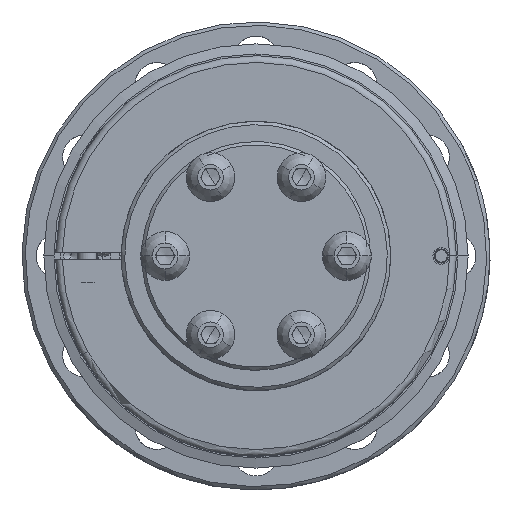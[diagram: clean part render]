
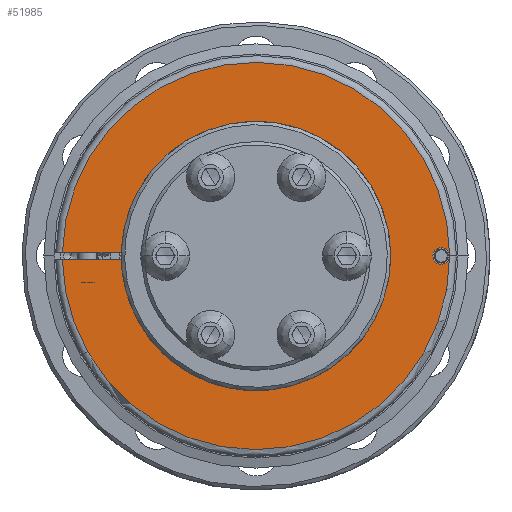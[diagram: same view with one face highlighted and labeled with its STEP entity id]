
A CAD part, left-side view. The second image highlights one B-rep face of the part: STEP entity #51985.
In plain terms, the highlighted planar face has unit normal (-1, 0, 0).
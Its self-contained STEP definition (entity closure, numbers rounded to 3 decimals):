
#44300=AXIS2_PLACEMENT_3D('Circle Axis2P3D',#44298,#44299,$) ;
#44354=AXIS2_PLACEMENT_3D('Circle Axis2P3D',#44352,#44353,$) ;
#44361=AXIS2_PLACEMENT_3D('Circle Axis2P3D',#44359,#44360,$) ;
#44396=AXIS2_PLACEMENT_3D('Circle Axis2P3D',#44394,#44395,$) ;
#51879=AXIS2_PLACEMENT_3D('Circle Axis2P3D',#51877,#51878,$) ;
#51934=AXIS2_PLACEMENT_3D('Plane Axis2P3D',#51931,#51932,#51933) ;
#51952=AXIS2_PLACEMENT_3D('Circle Axis2P3D',#51950,#51951,$) ;
#51959=AXIS2_PLACEMENT_3D('Circle Axis2P3D',#51957,#51958,$) ;
#51966=AXIS2_PLACEMENT_3D('Circle Axis2P3D',#51964,#51965,$) ;
#44261=CARTESIAN_POINT('Vertex',(-134.,-17.552,-9.589)) ;
#44295=CARTESIAN_POINT('Vertex',(-134.,17.552,9.589)) ;
#44298=CARTESIAN_POINT('Axis2P3D Location',(-134.,0.,0.)) ;
#44302=CARTESIAN_POINT('Vertex',(-134.,19.994,0.5)) ;
#44349=CARTESIAN_POINT('Vertex',(-134.,19.994,-0.5)) ;
#44352=CARTESIAN_POINT('Axis2P3D Location',(-134.,0.,0.)) ;
#44356=CARTESIAN_POINT('Vertex',(-134.,17.552,-9.589)) ;
#44359=CARTESIAN_POINT('Axis2P3D Location',(-134.,0.,0.)) ;
#44394=CARTESIAN_POINT('Axis2P3D Location',(-134.,0.,0.)) ;
#44398=CARTESIAN_POINT('Vertex',(-134.,-17.552,9.589)) ;
#44402=CARTESIAN_POINT('Control Point',(-134.,-17.552,9.589)) ;
#44403=CARTESIAN_POINT('Control Point',(-134.,-15.498,13.347)) ;
#44404=CARTESIAN_POINT('Control Point',(-134.,-12.438,16.556)) ;
#44405=CARTESIAN_POINT('Control Point',(-134.,-8.566,18.853)) ;
#44406=CARTESIAN_POINT('Control Point',(-134.,0.,21.147)) ;
#44407=CARTESIAN_POINT('Control Point',(-134.,8.566,18.853)) ;
#44408=CARTESIAN_POINT('Control Point',(-134.,12.438,16.556)) ;
#44409=CARTESIAN_POINT('Control Point',(-134.,15.498,13.347)) ;
#44410=CARTESIAN_POINT('Control Point',(-134.,17.552,9.589)) ;
#51872=CARTESIAN_POINT('Vertex',(-134.,-28.579,0.589)) ;
#51877=CARTESIAN_POINT('Axis2P3D Location',(-134.,-27.5,0.)) ;
#51881=CARTESIAN_POINT('Vertex',(-134.,-26.421,-0.589)) ;
#51909=CARTESIAN_POINT('Control Point',(-134.,-26.421,-0.589)) ;
#51910=CARTESIAN_POINT('Control Point',(-134.,-26.606,-0.928)) ;
#51911=CARTESIAN_POINT('Control Point',(-134.,-26.924,-1.195)) ;
#51912=CARTESIAN_POINT('Control Point',(-134.,-27.339,-1.316)) ;
#51913=CARTESIAN_POINT('Control Point',(-134.,-28.162,-1.212)) ;
#51914=CARTESIAN_POINT('Control Point',(-134.,-28.695,-0.576)) ;
#51915=CARTESIAN_POINT('Control Point',(-134.,-28.816,-0.161)) ;
#51916=CARTESIAN_POINT('Control Point',(-134.,-28.764,0.25)) ;
#51917=CARTESIAN_POINT('Control Point',(-134.,-28.579,0.589)) ;
#51931=CARTESIAN_POINT('Axis2P3D Location',(-134.,0.,0.)) ;
#51936=CARTESIAN_POINT('Line Origine',(-134.,24.37,0.5)) ;
#51940=CARTESIAN_POINT('Vertex',(-134.,28.746,0.5)) ;
#51943=CARTESIAN_POINT('Line Origine',(-134.,24.37,-0.5)) ;
#51947=CARTESIAN_POINT('Vertex',(-134.,28.746,-0.5)) ;
#51950=CARTESIAN_POINT('Axis2P3D Location',(-134.,0.,0.)) ;
#51954=CARTESIAN_POINT('Vertex',(-134.,24.982,-14.228)) ;
#51957=CARTESIAN_POINT('Axis2P3D Location',(-134.,0.,0.)) ;
#51961=CARTESIAN_POINT('Vertex',(-134.,-28.75,0.)) ;
#51964=CARTESIAN_POINT('Axis2P3D Location',(-134.,0.,0.)) ;
#44299=DIRECTION('Axis2P3D Direction',(1.,0.,0.)) ;
#44353=DIRECTION('Axis2P3D Direction',(1.,0.,0.)) ;
#44360=DIRECTION('Axis2P3D Direction',(1.,0.,0.)) ;
#44395=DIRECTION('Axis2P3D Direction',(1.,0.,0.)) ;
#51878=DIRECTION('Axis2P3D Direction',(-1.,0.,0.)) ;
#51932=DIRECTION('Axis2P3D Direction',(1.,0.,0.)) ;
#51933=DIRECTION('Axis2P3D XDirection',(0.,1.,0.)) ;
#51937=DIRECTION('Vector Direction',(0.,1.,0.)) ;
#51944=DIRECTION('Vector Direction',(0.,-1.,0.)) ;
#51951=DIRECTION('Axis2P3D Direction',(1.,0.,0.)) ;
#51958=DIRECTION('Axis2P3D Direction',(1.,0.,0.)) ;
#51965=DIRECTION('Axis2P3D Direction',(1.,0.,0.)) ;
#51938=VECTOR('Line Direction',#51937,1.) ;
#51945=VECTOR('Line Direction',#51944,1.) ;
#51970=ORIENTED_EDGE('',*,*,#51942,.T.) ;
#51971=ORIENTED_EDGE('',*,*,#44304,.F.) ;
#51972=ORIENTED_EDGE('',*,*,#44411,.T.) ;
#51973=ORIENTED_EDGE('',*,*,#44400,.F.) ;
#51974=ORIENTED_EDGE('',*,*,#44363,.T.) ;
#51975=ORIENTED_EDGE('',*,*,#44358,.F.) ;
#51976=ORIENTED_EDGE('',*,*,#51949,.T.) ;
#51977=ORIENTED_EDGE('',*,*,#51956,.F.) ;
#51978=ORIENTED_EDGE('',*,*,#51963,.F.) ;
#51979=ORIENTED_EDGE('',*,*,#51968,.F.) ;
#51982=ORIENTED_EDGE('',*,*,#51883,.T.) ;
#51983=ORIENTED_EDGE('',*,*,#51918,.T.) ;
#51984=FACE_BOUND('',#51981,.T.) ;
#51985=ADVANCED_FACE('MKRF40.1\\25029.1',(#51980,#51984),#51935,.F.) ;
#44401=B_SPLINE_CURVE_WITH_KNOTS('',5,(#44402,#44403,#44404,#44405,#44406,#44407,#44408,#44409,#44410),.UNSPECIFIED.,.F.,.U.,(6,3,6),(-26.166,-4.75,16.666),.UNSPECIFIED.) ;
#51908=B_SPLINE_CURVE_WITH_KNOTS('',5,(#51909,#51910,#51911,#51912,#51913,#51914,#51915,#51916,#51917),.UNSPECIFIED.,.F.,.U.,(6,3,6),(-1.931,0.,1.931),.UNSPECIFIED.) ;
#44301=CIRCLE('generated circle',#44300,20.) ;
#44355=CIRCLE('generated circle',#44354,20.) ;
#44362=CIRCLE('generated circle',#44361,20.) ;
#44397=CIRCLE('generated circle',#44396,20.) ;
#51880=CIRCLE('generated circle',#51879,1.23) ;
#51953=CIRCLE('generated circle',#51952,28.75) ;
#51960=CIRCLE('generated circle',#51959,28.75) ;
#51967=CIRCLE('generated circle',#51966,28.75) ;
#44304=EDGE_CURVE('',#44296,#44303,#44301,.F.) ;
#44358=EDGE_CURVE('',#44350,#44357,#44355,.F.) ;
#44363=EDGE_CURVE('',#44262,#44357,#44362,.T.) ;
#44400=EDGE_CURVE('',#44262,#44399,#44397,.F.) ;
#44411=EDGE_CURVE('',#44296,#44399,#44401,.F.) ;
#51883=EDGE_CURVE('',#51882,#51873,#51880,.F.) ;
#51918=EDGE_CURVE('',#51873,#51882,#51908,.F.) ;
#51942=EDGE_CURVE('',#51941,#44303,#51939,.F.) ;
#51949=EDGE_CURVE('',#44350,#51948,#51946,.F.) ;
#51956=EDGE_CURVE('',#51955,#51948,#51953,.T.) ;
#51963=EDGE_CURVE('',#51962,#51955,#51960,.T.) ;
#51968=EDGE_CURVE('',#51941,#51962,#51967,.T.) ;
#51969=EDGE_LOOP('',(#51970,#51971,#51972,#51973,#51974,#51975,#51976,#51977,#51978,#51979)) ;
#51981=EDGE_LOOP('',(#51982,#51983)) ;
#51980=FACE_OUTER_BOUND('',#51969,.T.) ;
#51939=LINE('Line',#51936,#51938) ;
#51946=LINE('Line',#51943,#51945) ;
#51935=PLANE('',#51934) ;
#44262=VERTEX_POINT('',#44261) ;
#44296=VERTEX_POINT('',#44295) ;
#44303=VERTEX_POINT('',#44302) ;
#44350=VERTEX_POINT('',#44349) ;
#44357=VERTEX_POINT('',#44356) ;
#44399=VERTEX_POINT('',#44398) ;
#51873=VERTEX_POINT('',#51872) ;
#51882=VERTEX_POINT('',#51881) ;
#51941=VERTEX_POINT('',#51940) ;
#51948=VERTEX_POINT('',#51947) ;
#51955=VERTEX_POINT('',#51954) ;
#51962=VERTEX_POINT('',#51961) ;
